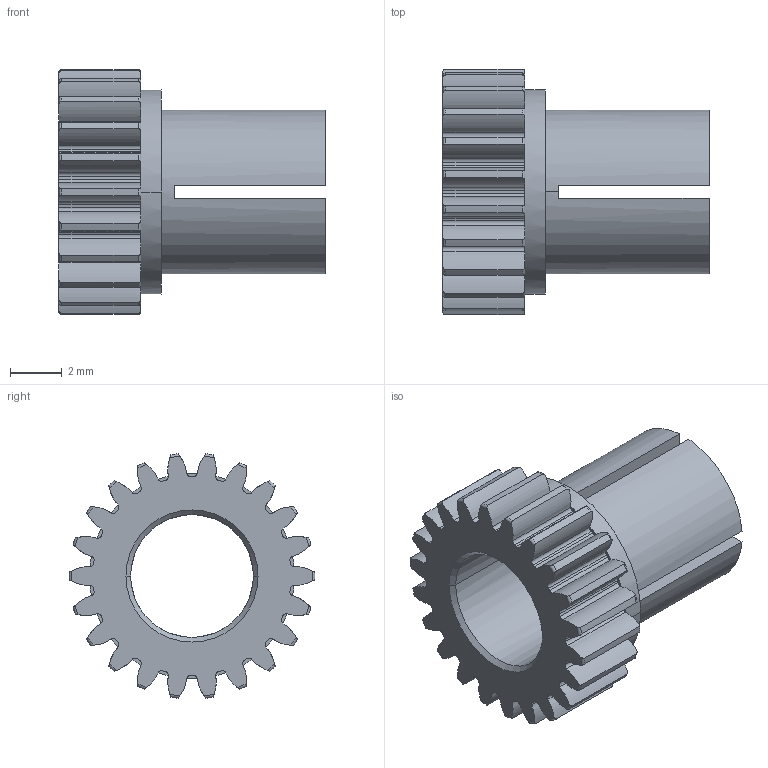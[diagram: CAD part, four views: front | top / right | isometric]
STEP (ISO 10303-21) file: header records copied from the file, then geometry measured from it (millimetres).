
FILE_DESCRIPTION((''),'2;1');
FILE_NAME('55398','2011-01-23T',('carefree'),(''),'PRO/ENGINEER BY PARAMETRIC TECHNOLOGY CORPORATION, 2005030','PRO/ENGINEER BY PARAMETRIC TECHNOLOGY CORPORATION, 2005030','');
FILE_SCHEMA(('CONFIG_CONTROL_DESIGN'));
Length unit declared in the file: inch
Products named in the file (1): 55398
Bounding box: 10.31 x 9.52 x 9.46 mm (x, y, z)
Volume: 233.2 mm3; surface area: 568.8 mm2
Topology: 1 solids, 1 shells, 250 faces, 698 edges, 450 vertices
Faces by surface type: cylinder 94, plane 62, torus 44, extrusion 44, cone 6
Entity records: 10389 total; most frequent: CARTESIAN_POINT 4107, ORIENTED_EDGE 1396, DIRECTION 1224, EDGE_CURVE 698, AXIS2_PLACEMENT_3D 504, VERTEX_POINT 450, CIRCLE 298, B_SPLINE_CURVE_WITH_KNOTS 272
